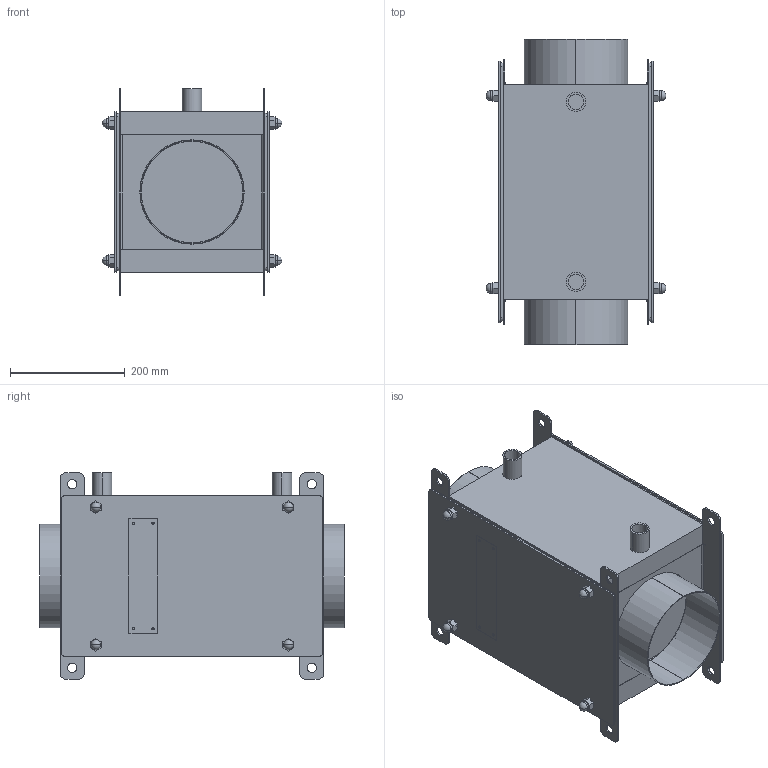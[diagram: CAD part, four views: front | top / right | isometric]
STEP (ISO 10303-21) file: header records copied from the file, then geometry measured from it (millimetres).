
FILE_DESCRIPTION (( 'STEP AP203' ), '1' );
FILE_NAME ('FW-100.STEP', '2024-12-19T10:42:58', ( '' ), ( '' ), 'SwSTEP 2.0', 'SolidWorks 2016', '' );
FILE_SCHEMA (( 'CONFIG_CONTROL_DESIGN' ));
Length unit declared in the file: millimetre
Products named in the file (12): FW-100; F.353.Z03 - Gehäuse Teil 1 Gesamt_F.353.Z03 - Geh„use Teil 1 Gesamt; F.351.Z02 - Abdeckung Gesamt_F.351.Z02 - Abdeckung Gesamt; F.353.E01 - Gehäuse Teil 1_F.353.E01 - Geh„use Teil 1; F.350 - Block 01_F.350 - Block 01 - FW-100; N.012.01 - FERCHER Plakette Klein_N.012.01 - FERCHER Schild Klein; F.353.E02 - Glattrohr_F.353.E02 - Glattrohr; DIN1587 - Sechskant-Hutmuttern hohe Form_DIN1587.M12; F.353.D01 - Dichtung_F.353.D01 - Dichtung; F.353.E05 - Abdeckung Teil 2_F.353.E05 - Abdeckung Teil 2; F.353.E03 - Gewindebolzen_F.353.E03 - Gewindebolzen; F.353.E04 - Abdeckung_F.353.E04 - Abdeckung
Assembly tree (28 placements, depth 3):
  FW-100
    F.353.E03 - Gewindebolzen_F.353.E03 - Gewindebolzen  x8
    F.353.Z03 - Gehäuse Teil 1 Gesamt_F.353.Z03 - Geh„use Teil 1 Gesamt  x2
      F.353.E01 - Gehäuse Teil 1_F.353.E01 - Geh„use Teil 1
      F.353.E02 - Glattrohr_F.353.E02 - Glattrohr
    F.353.D01 - Dichtung_F.353.D01 - Dichtung  x2
    F.351.Z02 - Abdeckung Gesamt_F.351.Z02 - Abdeckung Gesamt  x2
      F.353.E04 - Abdeckung_F.353.E04 - Abdeckung
      F.353.E05 - Abdeckung Teil 2_F.353.E05 - Abdeckung Teil 2
      N.012.01 - FERCHER Plakette Klein_N.012.01 - FERCHER Schild Klein
    DIN1587 - Sechskant-Hutmuttern hohe Form_DIN1587.M12  x8
    F.350 - Block 01_F.350 - Block 01 - FW-100
Bounding box: 314 x 532 x 360 mm (x, y, z)
Volume: 23825780.7 mm3; surface area: 2060154.5 mm2
Topology: 29 solids, 29 shells, 524 faces, 1252 edges, 776 vertices
Faces by surface type: plane 260, cylinder 192, cone 48, sphere 16, bspline 8
Entity records: 8106 total; most frequent: CARTESIAN_POINT 1315, DIRECTION 1118, ORIENTED_EDGE 988, EDGE_CURVE 494, AXIS2_PLACEMENT_3D 397, LINE 324, VECTOR 324, VERTEX_POINT 314
